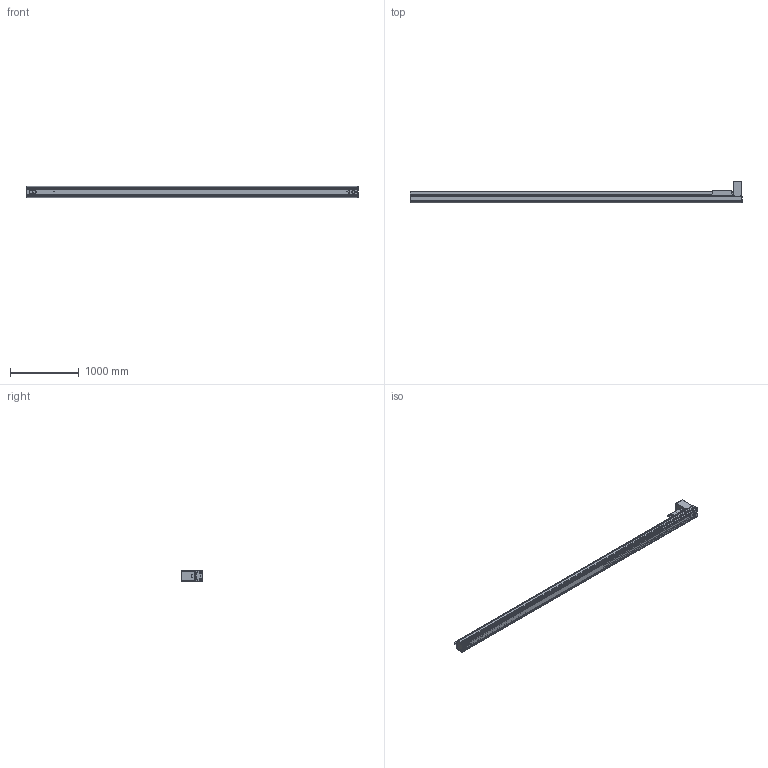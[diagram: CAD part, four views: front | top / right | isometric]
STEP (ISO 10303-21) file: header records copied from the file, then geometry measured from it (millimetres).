
FILE_DESCRIPTION((''),'2;1');
FILE_NAME('BE50G-BT-L19N-X25_IGS_PRT','2017-06-18T',(' '),(''),'PRO/ENGINEER BY PARAMETRIC TECHNOLOGY CORPORATION, 2015030','PRO/ENGINEER BY PARAMETRIC TECHNOLOGY CORPORATION, 2015030','');
FILE_SCHEMA(('CONFIG_CONTROL_DESIGN'));
Products named in the file (1): BE50G-BT-L19N-X25_IGS_PRT
Bounding box: 4820 x 309 x 160 mm (x, y, z)
Volume: 3135142 mm3; surface area: 9417742.8 mm2
Topology: 12 solids, 410 shells, 2416 faces, 7481 edges, 5137 vertices
Faces by surface type: cylinder 1459, plane 680, cone 234, sphere 23, torus 20
Entity records: 88111 total; most frequent: CARTESIAN_POINT 20478, DIRECTION 14151, ORIENTED_EDGE 13490, EDGE_CURVE 7407, AXIS2_PLACEMENT_3D 5433, VERTEX_POINT 5137, VECTOR 3285, LINE 3285
